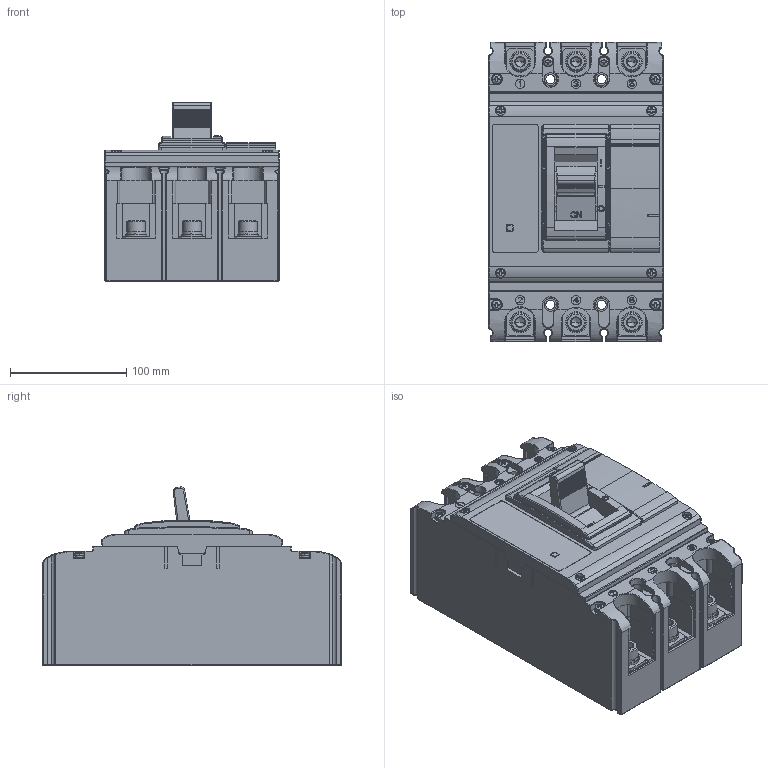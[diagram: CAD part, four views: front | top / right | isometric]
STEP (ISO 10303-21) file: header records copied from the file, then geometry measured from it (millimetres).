
FILE_DESCRIPTION (( 'STEP AP214' ), '1' );
FILE_NAME ('TGM1N-400_630-3P (1).STEP', '2025-12-19T06:39:28', ( '' ), ( '' ), 'SwSTEP 2.0', 'SolidWorks 2024', '' );
FILE_SCHEMA (( 'AUTOMOTIVE_DESIGN' ));
Length unit declared in the file: millimetre
Products named in the file (3): TGM1N-400_630-3P (1).stp; TGM1N-400_630-3P (1); TENGEN_1N_TGM1N-400_3P_250-400A_1.stp
Assembly tree (2 placements, depth 3):
  TGM1N-400_630-3P (1)
    TGM1N-400_630-3P (1).stp
      TENGEN_1N_TGM1N-400_3P_250-400A_1.stp
Bounding box: 150 x 257 x 153.2 mm (x, y, z)
Volume: 3498771.6 mm3; surface area: 412180.8 mm2
Topology: 1 solids, 28 shells, 4211 faces, 10939 edges, 6815 vertices
Faces by surface type: plane 2433, cylinder 1153, sphere 238, bspline 182, cone 142, torus 63
Entity records: 143106 total; most frequent: CARTESIAN_POINT 42273, ORIENTED_EDGE 21630, DIRECTION 20256, EDGE_CURVE 10815, VECTOR 6932, LINE 6932, VERTEX_POINT 6761, AXIS2_PLACEMENT_3D 6662
